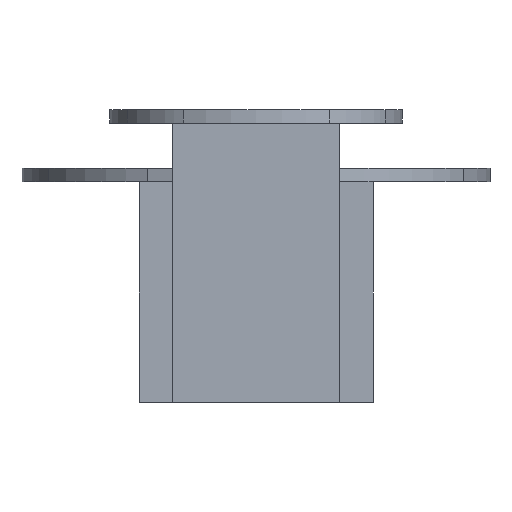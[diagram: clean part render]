
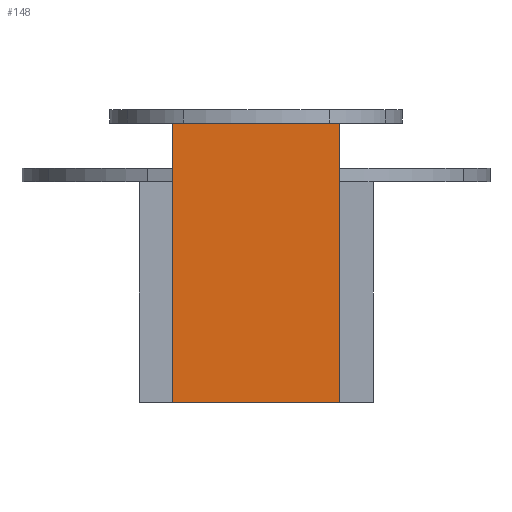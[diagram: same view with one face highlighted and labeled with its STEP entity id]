
A CAD part, left-side view. The second image highlights one B-rep face of the part: STEP entity #148.
In plain terms, the highlighted planar face has unit normal (-1, 0, 0).
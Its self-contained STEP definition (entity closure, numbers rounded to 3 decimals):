
#71=B_SPLINE_CURVE_WITH_KNOTS('',1,(#1260,#1261),.UNSPECIFIED.,.F.,.F.,
(2,2),(0.,285.),.UNSPECIFIED.);
#72=B_SPLINE_CURVE_WITH_KNOTS('',1,(#1262,#1263),.UNSPECIFIED.,.F.,.F.,
(2,2),(0.,477.),.UNSPECIFIED.);
#73=B_SPLINE_CURVE_WITH_KNOTS('',1,(#1264,#1265),.UNSPECIFIED.,.F.,.F.,
(2,2),(0.,285.),.UNSPECIFIED.);
#74=B_SPLINE_CURVE_WITH_KNOTS('',1,(#1266,#1267),.UNSPECIFIED.,.F.,.F.,
(2,2),(0.,477.),.UNSPECIFIED.);
#148=ADVANCED_FACE('',(#204),#796,.T.);
#204=FACE_OUTER_BOUND('',#260,.T.);
#260=EDGE_LOOP('',(#444,#445,#446,#447));
#444=ORIENTED_EDGE('',*,*,#600,.T.);
#445=ORIENTED_EDGE('',*,*,#601,.T.);
#446=ORIENTED_EDGE('',*,*,#602,.F.);
#447=ORIENTED_EDGE('',*,*,#603,.F.);
#600=EDGE_CURVE('',#740,#741,#71,.T.);
#601=EDGE_CURVE('',#741,#742,#72,.T.);
#602=EDGE_CURVE('',#743,#742,#73,.T.);
#603=EDGE_CURVE('',#740,#743,#74,.T.);
#740=VERTEX_POINT('',#1252);
#741=VERTEX_POINT('',#1253);
#742=VERTEX_POINT('',#1254);
#743=VERTEX_POINT('',#1255);
#796=PLANE('',#872);
#872=AXIS2_PLACEMENT_3D('',#1246,#915,$);
#915=DIRECTION('',(-1.,0.,0.));
#1246=CARTESIAN_POINT('',(91.811,5.202,489.306));
#1252=CARTESIAN_POINT('',(91.811,5.202,489.306));
#1253=CARTESIAN_POINT('',(91.811,290.202,489.306));
#1254=CARTESIAN_POINT('',(91.811,290.202,12.306));
#1255=CARTESIAN_POINT('',(91.811,5.202,12.306));
#1260=CARTESIAN_POINT('',(91.811,5.202,489.306));
#1261=CARTESIAN_POINT('',(91.811,290.202,489.306));
#1262=CARTESIAN_POINT('',(91.811,290.202,489.306));
#1263=CARTESIAN_POINT('',(91.811,290.202,12.306));
#1264=CARTESIAN_POINT('',(91.811,5.202,12.306));
#1265=CARTESIAN_POINT('',(91.811,290.202,12.306));
#1266=CARTESIAN_POINT('',(91.811,5.202,489.306));
#1267=CARTESIAN_POINT('',(91.811,5.202,12.306));
